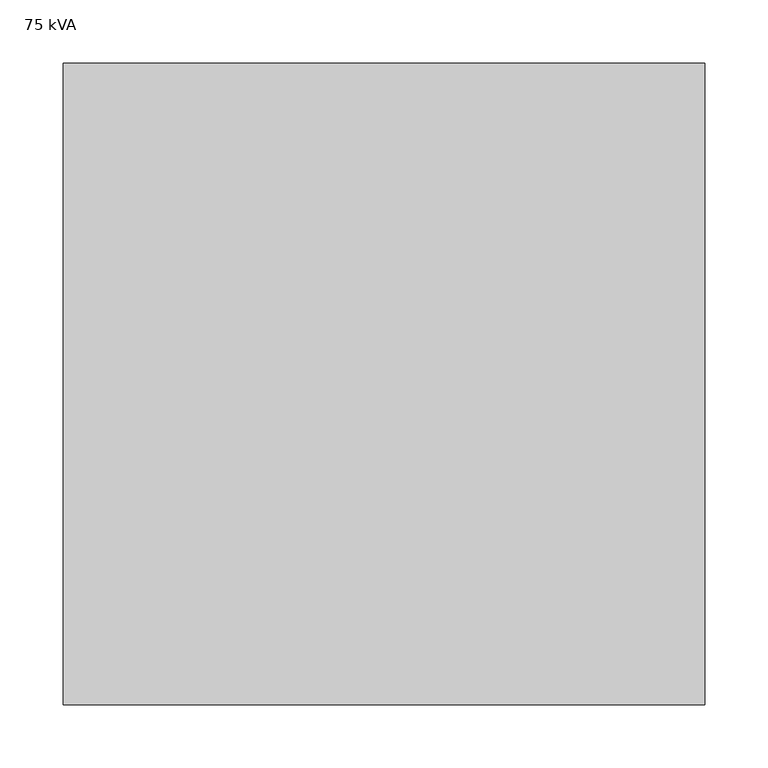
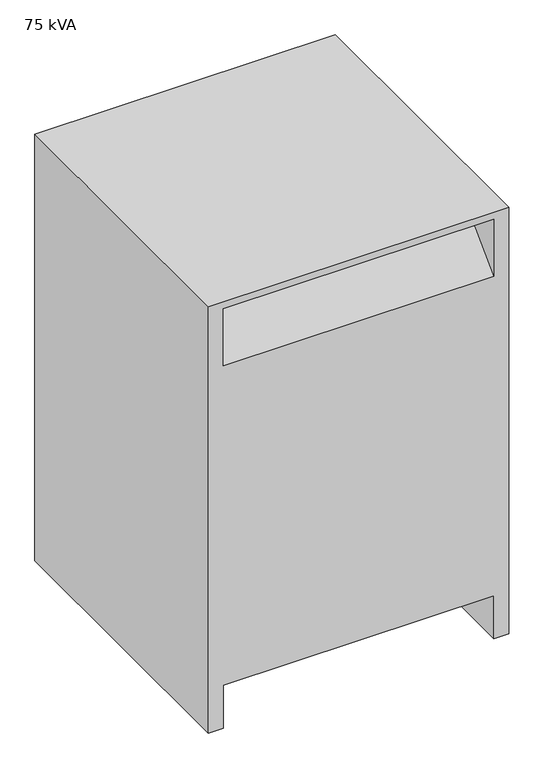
"""IFC4 building model written with IfcOpenShell, lengths in millimetres: proxy geometry, M_Dry Type Transformer - 480-208Y120 - NEMA Type 2 : 75 kVA."""

from ifc_helpers import new_model, si_unit, origin, place, context, project, spatial, faceted_brep, source, transform, mapped, element, save


def proxy_75_kva_f23e4866(model_context):
    return source(origin(), model_context, "Body", "Brep", [
        faceted_brep([(254.0, -123.2841349, 762.0), (254.0, 384.7158651, 762.0), (-254.0, 384.7158651, 762.0), (-254.0, -123.2841349, 762.0), (-254.0, -123.2841349, 0.0), (-254.0, 384.7158651, 0.0), (-228.6, 384.7158651, 0.0), (-228.6, -123.2841349, 0.0), (254.0, 384.7158651, 0.0), (254.0, -123.2841349, 0.0), (228.6, -123.2841349, 0.0), (228.6, 384.7158651, 0.0), (228.6, 384.7158651, 76.2), (-228.6, 384.7158651, 76.2), (228.6, 384.7158651, 647.7), (228.6, 384.7158651, 749.3), (-228.6, 384.7158651, 749.3), (-228.6, 384.7158651, 647.7), (-228.6, -123.2841349, 76.2), (228.6, -123.2841349, 76.2), (228.6, -123.2841349, 749.3), (228.6, -123.2841349, 647.7), (-228.6, -123.2841349, 647.7), (-228.6, -123.2841349, 749.3), (228.6, -21.6841349, 749.3), (-228.6, -21.6841349, 749.3), (228.6, 283.1158651, 749.3), (-228.6, 283.1158651, 749.3)], [[[0, 1, 2, 3]], [[4, 5, 6, 7]], [[8, 9, 10, 11]], [[1, 0, 9, 8]], [[2, 1, 8, 11, 12, 13, 6, 5], [14, 15, 16, 17]], [[3, 2, 5, 4]], [[0, 3, 4, 7, 18, 19, 10, 9], [20, 21, 22, 23]], [[18, 13, 12, 19]], [[13, 18, 7, 6]], [[19, 12, 11, 10]], [[24, 21, 20]], [[25, 23, 22]], [[24, 20, 23, 25]], [[21, 24, 25, 22]], [[26, 15, 14]], [[27, 17, 16]], [[26, 14, 17, 27]], [[15, 26, 27, 16]]]),
    ])


if __name__ == "__main__":
    model = new_model("IFC4")
    model_context = context("Model", 3, world=origin())
    ifc_project = project(units=[si_unit("LENGTHUNIT", "METRE", prefix="MILLI")], contexts=[model_context])
    site = spatial("IfcSite", under=ifc_project)
    building = spatial("IfcBuilding", under=site)
    placement = place(None, origin())
    proxy_75_kva_shape = proxy_75_kva_f23e4866(model_context)
    element("IfcBuildingElementProxy", 1, Name="M_Dry Type Transformer - 480-208Y120 - NEMA Type 2 : 75 kVA", ObjectType="M_Dry Type Transformer - 480-208Y120 - NEMA Type 2 : 75 kVA", at=placement, inside=building, context=model_context, shape_type="MappedRepresentation", body=[
        mapped(proxy_75_kva_shape, transform((0.0, 0.0, 0.0), x_axis=(1.0, 0.0, 0.0), y_axis=(0.0, 1.0, 0.0), z_axis=(0.0, 0.0, 1.0))),
    ])
    save(model, "model.ifc")
